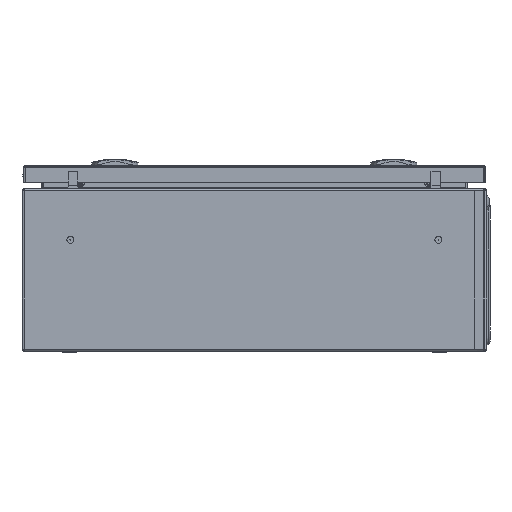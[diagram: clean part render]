
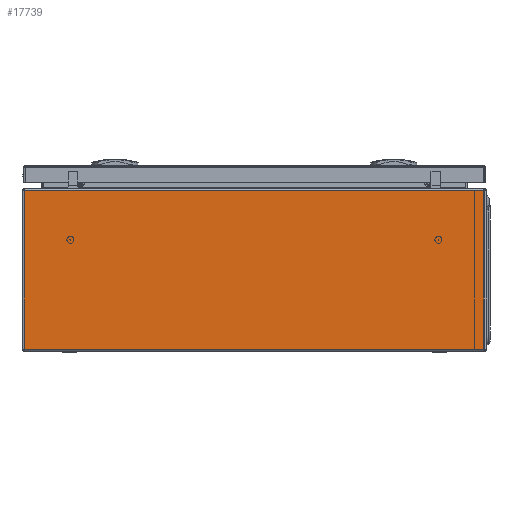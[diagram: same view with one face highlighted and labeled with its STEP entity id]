
A CAD part, left-side view. The second image highlights one B-rep face of the part: STEP entity #17739.
In plain terms, the highlighted planar face has unit normal (-1, 0, 0).
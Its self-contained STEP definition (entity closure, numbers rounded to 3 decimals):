
#2238 = CARTESIAN_POINT ( 'NONE',  ( -1.2, 85.1, 247. ) ) ;
#2471 = CARTESIAN_POINT ( 'NONE',  ( -1.2, -85.1, 247. ) ) ;
#9771 = VECTOR ( 'NONE', #52444, 1000. ) ;
#13939 = ORIENTED_EDGE ( 'NONE', *, *, #79650, .F. ) ;
#14845 = VECTOR ( 'NONE', #67051, 1000. ) ;
#15280 = VECTOR ( 'NONE', #71890, 1000. ) ;
#16735 = ORIENTED_EDGE ( 'NONE', *, *, #85637, .F. ) ;
#17739 = ADVANCED_FACE ( 'NONE', ( #87710 ), #28640, .F. ) ;
#18906 = CARTESIAN_POINT ( 'NONE',  ( -1.2, 85.1, 247. ) ) ;
#20330 = EDGE_CURVE ( 'NONE', #58352, #106585, #69246, .T. ) ;
#20518 = DIRECTION ( 'NONE',  ( 0., 0., -1. ) ) ;
#23559 = CARTESIAN_POINT ( 'NONE',  ( -1.2, 85.1, 247. ) ) ;
#25973 = CARTESIAN_POINT ( 'NONE',  ( -1.2, -85.1, 246.95 ) ) ;
#27517 = ORIENTED_EDGE ( 'NONE', *, *, #51953, .T. ) ;
#28640 = PLANE ( 'NONE',  #55450 ) ;
#32277 = EDGE_CURVE ( 'NONE', #68705, #56229, #55312, .T. ) ;
#33612 = LINE ( 'NONE', #43371, #65419 ) ;
#36761 = DIRECTION ( 'NONE',  ( 0., -1., 0. ) ) ;
#36911 = LINE ( 'NONE', #2238, #73082 ) ;
#37190 = EDGE_CURVE ( 'NONE', #68705, #61263, #56436, .T. ) ;
#38831 = CARTESIAN_POINT ( 'NONE',  ( -1.2, -85.1, -247.55 ) ) ;
#39134 = ORIENTED_EDGE ( 'NONE', *, *, #32277, .F. ) ;
#43371 = CARTESIAN_POINT ( 'NONE',  ( -1.2, -85.1, 248.8 ) ) ;
#49385 = CARTESIAN_POINT ( 'NONE',  ( -1.2, -85.1, -247.6 ) ) ;
#51599 = DIRECTION ( 'NONE',  ( 0., 0., -1. ) ) ;
#51953 = EDGE_CURVE ( 'NONE', #76375, #106585, #80535, .T. ) ;
#52444 = DIRECTION ( 'NONE',  ( 0., 0., -1. ) ) ;
#53609 = CARTESIAN_POINT ( 'NONE',  ( -1.2, -85.1, -248.8 ) ) ;
#53690 = CARTESIAN_POINT ( 'NONE',  ( -1.2, -85.1, -247.55 ) ) ;
#55312 = LINE ( 'NONE', #70530, #14845 ) ;
#55450 = AXIS2_PLACEMENT_3D ( 'NONE', #53609, #62267, #20518 ) ;
#56229 = VERTEX_POINT ( 'NONE', #70863 ) ;
#56436 = LINE ( 'NONE', #73243, #98409 ) ;
#56962 = DIRECTION ( 'NONE',  ( 0., -1., 0. ) ) ;
#58352 = VERTEX_POINT ( 'NONE', #2471 ) ;
#59350 = ORIENTED_EDGE ( 'NONE', *, *, #37190, .T. ) ;
#61263 = VERTEX_POINT ( 'NONE', #49385 ) ;
#61704 = LINE ( 'NONE', #23559, #88535 ) ;
#62267 = DIRECTION ( 'NONE',  ( 1., 0., 0. ) ) ;
#62544 = VERTEX_POINT ( 'NONE', #18906 ) ;
#65419 = VECTOR ( 'NONE', #67752, 1000. ) ;
#67051 = DIRECTION ( 'NONE',  ( 0., 0., 1. ) ) ;
#67752 = DIRECTION ( 'NONE',  ( 0., 0., -1. ) ) ;
#68705 = VERTEX_POINT ( 'NONE', #100143 ) ;
#69246 = LINE ( 'NONE', #102257, #9771 ) ;
#69659 = ORIENTED_EDGE ( 'NONE', *, *, #20330, .F. ) ;
#70530 = CARTESIAN_POINT ( 'NONE',  ( -1.2, 85.1, 248.8 ) ) ;
#70863 = CARTESIAN_POINT ( 'NONE',  ( -1.2, 85.1, -247.3 ) ) ;
#71890 = DIRECTION ( 'NONE',  ( 0., 0., 1. ) ) ;
#73082 = VECTOR ( 'NONE', #51599, 1000. ) ;
#73243 = CARTESIAN_POINT ( 'NONE',  ( -1.2, 85.1, -247.6 ) ) ;
#76375 = VERTEX_POINT ( 'NONE', #53690 ) ;
#79650 = EDGE_CURVE ( 'NONE', #76375, #61263, #33612, .T. ) ;
#80535 = LINE ( 'NONE', #38831, #15280 ) ;
#85633 = ORIENTED_EDGE ( 'NONE', *, *, #86356, .T. ) ;
#85637 = EDGE_CURVE ( 'NONE', #62544, #58352, #61704, .T. ) ;
#86356 = EDGE_CURVE ( 'NONE', #62544, #56229, #36911, .T. ) ;
#87710 = FACE_OUTER_BOUND ( 'NONE', #96387, .T. ) ;
#88535 = VECTOR ( 'NONE', #36761, 1000. ) ;
#96387 = EDGE_LOOP ( 'NONE', ( #16735, #85633, #39134, #59350, #13939, #27517, #69659 ) ) ;
#98409 = VECTOR ( 'NONE', #56962, 1000. ) ;
#100143 = CARTESIAN_POINT ( 'NONE',  ( -1.2, 85.1, -247.6 ) ) ;
#102257 = CARTESIAN_POINT ( 'NONE',  ( -1.2, -85.1, 248.8 ) ) ;
#106585 = VERTEX_POINT ( 'NONE', #25973 ) ;
